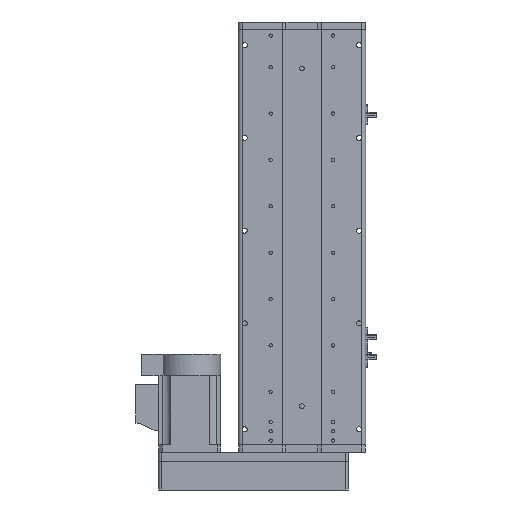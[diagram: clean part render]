
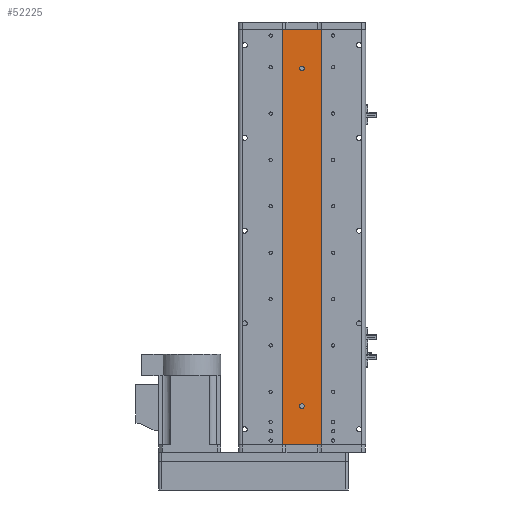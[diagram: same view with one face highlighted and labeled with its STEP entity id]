
A CAD part, front view. The second image highlights one B-rep face of the part: STEP entity #52225.
In plain terms, the highlighted planar face has unit normal (0, -1, 0).
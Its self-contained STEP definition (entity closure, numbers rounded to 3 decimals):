
#24 = CARTESIAN_POINT ( 'NONE',  ( -25., 1., 268.5 ) ) ;
#314 = VERTEX_POINT ( 'NONE', #29839 ) ;
#920 = VERTEX_POINT ( 'NONE', #6773 ) ;
#1429 = CARTESIAN_POINT ( 'NONE',  ( 0., 1., 218.5 ) ) ;
#1489 = DIRECTION ( 'NONE',  ( 0., 1., 0. ) ) ;
#1500 = DIRECTION ( 'NONE',  ( 1., 0., 0. ) ) ;
#2341 = VERTEX_POINT ( 'NONE', #29293 ) ;
#5623 = EDGE_CURVE ( 'NONE', #314, #36148, #26647, .T. ) ;
#5992 = DIRECTION ( 'NONE',  ( 0., 0., 1. ) ) ;
#6067 = CARTESIAN_POINT ( 'NONE',  ( 25., 1., -268.5 ) ) ;
#6218 = EDGE_LOOP ( 'NONE', ( #26319, #52034 ) ) ;
#6773 = CARTESIAN_POINT ( 'NONE',  ( 0., 1., 221.5 ) ) ;
#7671 = VERTEX_POINT ( 'NONE', #13712 ) ;
#8548 = DIRECTION ( 'NONE',  ( 0., 1., 0. ) ) ;
#10118 = CARTESIAN_POINT ( 'NONE',  ( -25., 1., -268.5 ) ) ;
#10653 = CARTESIAN_POINT ( 'NONE',  ( 25., 1., 268.5 ) ) ;
#10989 = CARTESIAN_POINT ( 'NONE',  ( 25., 1., 268.5 ) ) ;
#11738 = EDGE_CURVE ( 'NONE', #36148, #314, #39434, .T. ) ;
#11885 = AXIS2_PLACEMENT_3D ( 'NONE', #28668, #1489, #33191 ) ;
#13712 = CARTESIAN_POINT ( 'NONE',  ( -25., 1., 268.5 ) ) ;
#15544 = AXIS2_PLACEMENT_3D ( 'NONE', #10989, #47338, #20294 ) ;
#15974 = CARTESIAN_POINT ( 'NONE',  ( 25., 1., 268.5 ) ) ;
#16442 = VERTEX_POINT ( 'NONE', #10118 ) ;
#17882 = AXIS2_PLACEMENT_3D ( 'NONE', #1429, #33130, #5992 ) ;
#18337 = VERTEX_POINT ( 'NONE', #15974 ) ;
#18901 = CARTESIAN_POINT ( 'NONE',  ( 0., 1., 215.5 ) ) ;
#19715 = EDGE_CURVE ( 'NONE', #7671, #18337, #41288, .T. ) ;
#20099 = PLANE ( 'NONE',  #15544 ) ;
#20294 = DIRECTION ( 'NONE',  ( 0., 0., 1. ) ) ;
#20700 = ORIENTED_EDGE ( 'NONE', *, *, #19715, .F. ) ;
#22397 = FACE_OUTER_BOUND ( 'NONE', #40671, .T. ) ;
#23197 = CARTESIAN_POINT ( 'NONE',  ( 0., 1., -218.5 ) ) ;
#23822 = FACE_BOUND ( 'NONE', #28630, .T. ) ;
#25026 = CIRCLE ( 'NONE', #17882, 3. ) ;
#25324 = ORIENTED_EDGE ( 'NONE', *, *, #57456, .F. ) ;
#25643 = EDGE_CURVE ( 'NONE', #7671, #16442, #36358, .T. ) ;
#26319 = ORIENTED_EDGE ( 'NONE', *, *, #53631, .T. ) ;
#26421 = EDGE_CURVE ( 'NONE', #16442, #2341, #37738, .T. ) ;
#26647 = CIRCLE ( 'NONE', #49774, 3. ) ;
#27747 = DIRECTION ( 'NONE',  ( 0., 0., 1. ) ) ;
#28630 = EDGE_LOOP ( 'NONE', ( #40729, #35029 ) ) ;
#28668 = CARTESIAN_POINT ( 'NONE',  ( 0., 1., -218.5 ) ) ;
#29293 = CARTESIAN_POINT ( 'NONE',  ( 25., 1., -268.5 ) ) ;
#29839 = CARTESIAN_POINT ( 'NONE',  ( 0., 1., -221.5 ) ) ;
#32163 = VECTOR ( 'NONE', #54980, 1000. ) ;
#32287 = CARTESIAN_POINT ( 'NONE',  ( 25., 1., 268.5 ) ) ;
#33130 = DIRECTION ( 'NONE',  ( 0., 1., 0. ) ) ;
#33191 = DIRECTION ( 'NONE',  ( 0., 0., 1. ) ) ;
#33517 = VECTOR ( 'NONE', #40798, 1000. ) ;
#33570 = LINE ( 'NONE', #32287, #32163 ) ;
#35029 = ORIENTED_EDGE ( 'NONE', *, *, #11738, .T. ) ;
#35631 = CARTESIAN_POINT ( 'NONE',  ( 0., 1., 218.5 ) ) ;
#36148 = VERTEX_POINT ( 'NONE', #40462 ) ;
#36358 = LINE ( 'NONE', #24, #33517 ) ;
#36784 = ORIENTED_EDGE ( 'NONE', *, *, #26421, .T. ) ;
#37738 = LINE ( 'NONE', #6067, #48300 ) ;
#39434 = CIRCLE ( 'NONE', #11885, 3. ) ;
#39540 = EDGE_CURVE ( 'NONE', #920, #42543, #51608, .T. ) ;
#39884 = VECTOR ( 'NONE', #1500, 1000. ) ;
#40173 = DIRECTION ( 'NONE',  ( 0., 0., 1. ) ) ;
#40462 = CARTESIAN_POINT ( 'NONE',  ( 0., 1., -215.5 ) ) ;
#40671 = EDGE_LOOP ( 'NONE', ( #36784, #25324, #20700, #46824 ) ) ;
#40729 = ORIENTED_EDGE ( 'NONE', *, *, #5623, .T. ) ;
#40798 = DIRECTION ( 'NONE',  ( 0., 0., -1. ) ) ;
#41288 = LINE ( 'NONE', #10653, #39884 ) ;
#42543 = VERTEX_POINT ( 'NONE', #18901 ) ;
#46422 = FACE_BOUND ( 'NONE', #6218, .T. ) ;
#46824 = ORIENTED_EDGE ( 'NONE', *, *, #25643, .T. ) ;
#47338 = DIRECTION ( 'NONE',  ( 0., 1., 0. ) ) ;
#48224 = AXIS2_PLACEMENT_3D ( 'NONE', #35631, #8548, #40173 ) ;
#48300 = VECTOR ( 'NONE', #55943, 1000. ) ;
#49774 = AXIS2_PLACEMENT_3D ( 'NONE', #23197, #54802, #27747 ) ;
#51608 = CIRCLE ( 'NONE', #48224, 3. ) ;
#52034 = ORIENTED_EDGE ( 'NONE', *, *, #39540, .T. ) ;
#52225 = ADVANCED_FACE ( 'NONE', ( #23822, #46422, #22397 ), #20099, .F. ) ;
#53631 = EDGE_CURVE ( 'NONE', #42543, #920, #25026, .T. ) ;
#54802 = DIRECTION ( 'NONE',  ( 0., 1., 0. ) ) ;
#54980 = DIRECTION ( 'NONE',  ( 0., 0., -1. ) ) ;
#55943 = DIRECTION ( 'NONE',  ( 1., 0., 0. ) ) ;
#57456 = EDGE_CURVE ( 'NONE', #18337, #2341, #33570, .T. ) ;
